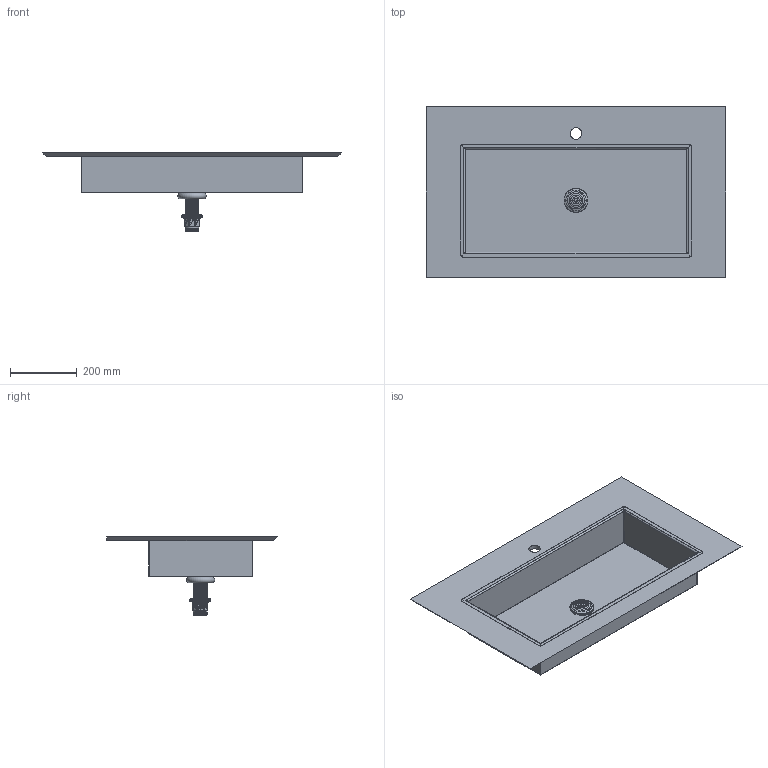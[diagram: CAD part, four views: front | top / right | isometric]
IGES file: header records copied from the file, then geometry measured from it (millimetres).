
Start section: Data from Parasolid IGES Translator 19.0.9, Copyright(c) 2006 Siemens PL M Software. All Rights Reserved.
Global section: file name: noorth-top-H 1,9 D 51,3 W 90_6558.igs; native system: By Siemens PLM Incorporated; preprocessor: XPlus GENERIC/IGES 19.0.9; author: Noname; organization: Noname; date: 20200603.105048; units: metre
Bounding box: 900 x 512 x 235.2 mm (x, y, z)
Volume: 2974331.7 mm3; surface area: 1496227.8 mm2
Topology: 2 solids, 2 shells, 11732 faces, 35116 edges, 35006 vertices
Faces by surface type: extrusion 11618, plane 60, cylinder 28, bspline 20, torus 4, cone 2
Full cylindrical faces by diameter (mm): 34.9 x1, 42 x1, 46 x1, 47.6 x1
